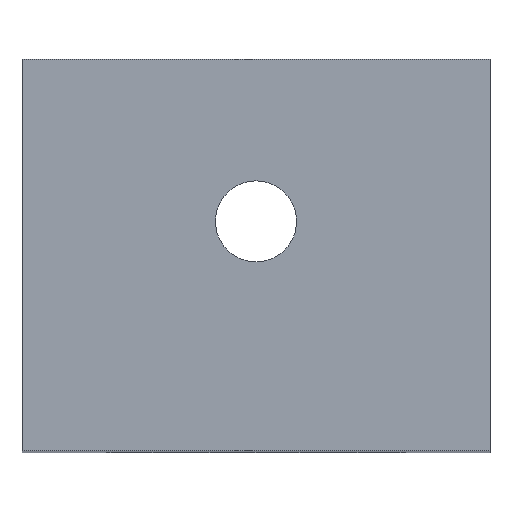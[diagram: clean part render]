
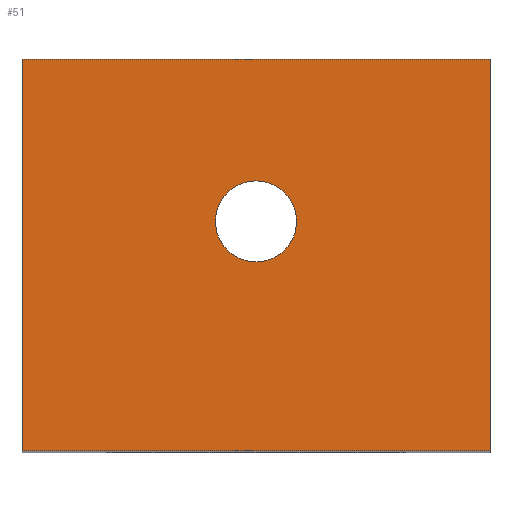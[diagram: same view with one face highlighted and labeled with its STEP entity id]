
A CAD part, top view. The second image highlights one B-rep face of the part: STEP entity #51.
In plain terms, the highlighted planar face has unit normal (0, 0, 1).
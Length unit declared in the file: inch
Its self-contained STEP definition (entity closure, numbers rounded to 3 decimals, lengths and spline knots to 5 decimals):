
#51=ADVANCED_FACE('',(#110,#111),#112,.T.);
#110=FACE_BOUND('',#190,.T.);
#111=FACE_OUTER_BOUND('',#191,.T.);
#112=PLANE('',#192);
#190=EDGE_LOOP('',(#313,#314,#315,#316));
#191=EDGE_LOOP('',(#317,#318,#319,#320));
#192=AXIS2_PLACEMENT_3D('',#321,#322,#323);
#313=ORIENTED_EDGE('',*,*,#446,.T.);
#314=ORIENTED_EDGE('',*,*,#450,.T.);
#315=ORIENTED_EDGE('',*,*,#451,.T.);
#316=ORIENTED_EDGE('',*,*,#433,.T.);
#317=ORIENTED_EDGE('',*,*,#452,.T.);
#318=ORIENTED_EDGE('',*,*,#453,.F.);
#319=ORIENTED_EDGE('',*,*,#425,.T.);
#320=ORIENTED_EDGE('',*,*,#443,.T.);
#321=CARTESIAN_POINT('',(0.,0.8031,3.49906));
#322=DIRECTION('',(0.0,0.0,1.0));
#323=DIRECTION('',(0.0,-1.0,0.0));
#425=EDGE_CURVE('',#494,#491,#495,.T.);
#433=EDGE_CURVE('',#508,#509,#510,.T.);
#443=EDGE_CURVE('',#491,#526,#528,.T.);
#446=EDGE_CURVE('',#509,#531,#532,.T.);
#450=EDGE_CURVE('',#531,#537,#538,.T.);
#451=EDGE_CURVE('',#537,#508,#539,.T.);
#452=EDGE_CURVE('',#526,#540,#541,.T.);
#453=EDGE_CURVE('',#494,#540,#542,.T.);
#491=VERTEX_POINT('',#590);
#494=VERTEX_POINT('',#594);
#495=LINE('',#595,#596);
#508=VERTEX_POINT('',#615);
#509=VERTEX_POINT('',#616);
#510=B_SPLINE_CURVE_WITH_KNOTS('',3,(#617,#618,#619,#620),.UNSPECIFIED.,.F.,.F.,(4,4),(-1.0,-0.0),.UNSPECIFIED.);
#526=VERTEX_POINT('',#653);
#528=LINE('',#656,#657);
#531=VERTEX_POINT('',#661);
#532=B_SPLINE_CURVE_WITH_KNOTS('',3,(#662,#663,#664,#665),.UNSPECIFIED.,.F.,.F.,(4,4),(-1.0,-0.0),.UNSPECIFIED.);
#537=VERTEX_POINT('',#674);
#538=B_SPLINE_CURVE_WITH_KNOTS('',3,(#675,#676,#677,#678),.UNSPECIFIED.,.F.,.F.,(4,4),(-1.0,-0.0),.UNSPECIFIED.);
#539=B_SPLINE_CURVE_WITH_KNOTS('',3,(#679,#680,#681,#682),.UNSPECIFIED.,.F.,.F.,(4,4),(-1.0,-0.0),.UNSPECIFIED.);
#540=VERTEX_POINT('',#683);
#541=LINE('',#684,#685);
#542=LINE('',#686,#687);
#590=CARTESIAN_POINT('',(0.,0.12384,3.49906));
#594=CARTESIAN_POINT('',(0.,1.48237,3.49906));
#595=CARTESIAN_POINT('',(0.,1.48237,3.49906));
#596=VECTOR('',#769,1.0);
#615=CARTESIAN_POINT('',(0.8125,0.77967,3.49906));
#616=CARTESIAN_POINT('',(0.67188,0.92029,3.49906));
#617=CARTESIAN_POINT('',(0.8125,0.77967,3.49906));
#618=CARTESIAN_POINT('',(0.73484,0.77967,3.49906));
#619=CARTESIAN_POINT('',(0.67188,0.84263,3.49906));
#620=CARTESIAN_POINT('',(0.67188,0.92029,3.49906));
#653=CARTESIAN_POINT('',(1.625,0.12384,3.49906));
#656=CARTESIAN_POINT('',(0.,0.12384,3.49906));
#657=VECTOR('',#779,1.0);
#661=CARTESIAN_POINT('',(0.8125,1.06092,3.49906));
#662=CARTESIAN_POINT('',(0.67188,0.92029,3.49906));
#663=CARTESIAN_POINT('',(0.67188,0.99796,3.49906));
#664=CARTESIAN_POINT('',(0.73484,1.06092,3.49906));
#665=CARTESIAN_POINT('',(0.8125,1.06092,3.49906));
#674=CARTESIAN_POINT('',(0.95313,0.92029,3.49906));
#675=CARTESIAN_POINT('',(0.8125,1.06092,3.49906));
#676=CARTESIAN_POINT('',(0.89016,1.06092,3.49906));
#677=CARTESIAN_POINT('',(0.95313,0.99796,3.49906));
#678=CARTESIAN_POINT('',(0.95313,0.92029,3.49906));
#679=CARTESIAN_POINT('',(0.95313,0.92029,3.49906));
#680=CARTESIAN_POINT('',(0.95313,0.84263,3.49906));
#681=CARTESIAN_POINT('',(0.89016,0.77967,3.49906));
#682=CARTESIAN_POINT('',(0.8125,0.77967,3.49906));
#683=CARTESIAN_POINT('',(1.625,1.48237,3.49906));
#684=CARTESIAN_POINT('',(1.625,1.48237,3.49906));
#685=VECTOR('',#782,1.0);
#686=CARTESIAN_POINT('',(0.,1.48237,3.49906));
#687=VECTOR('',#783,1.0);
#769=DIRECTION('',(0.0,-1.0,0.0));
#779=DIRECTION('',(1.0,0.0,0.0));
#782=DIRECTION('',(0.0,1.0,0.0));
#783=DIRECTION('',(1.0,0.0,0.0));
